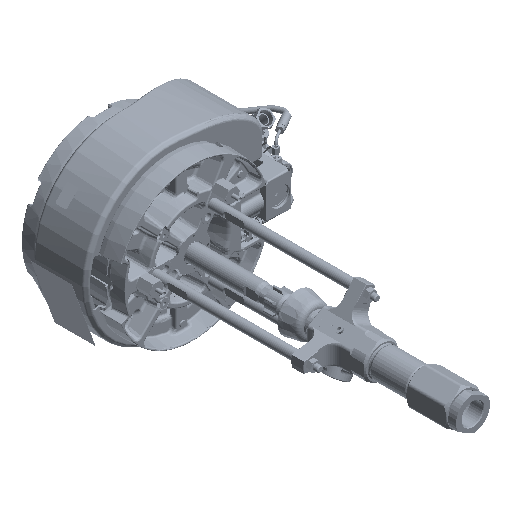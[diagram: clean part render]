
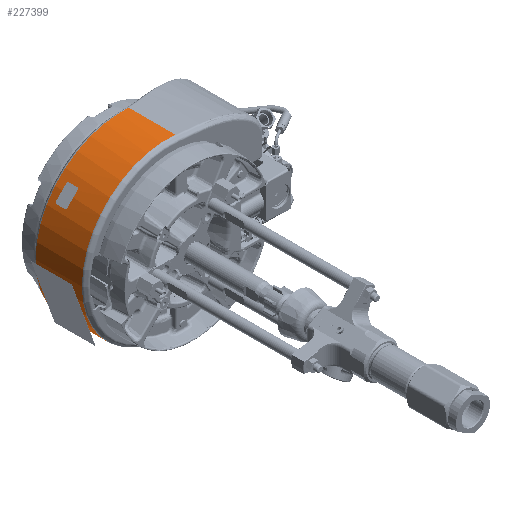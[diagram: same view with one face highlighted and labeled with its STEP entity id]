
A CAD part, isometric view. The second image highlights one B-rep face of the part: STEP entity #227399.
In plain terms, the highlighted cylindrical face has radius 227.33 mm (diameter 454.66 mm), a partial arc.
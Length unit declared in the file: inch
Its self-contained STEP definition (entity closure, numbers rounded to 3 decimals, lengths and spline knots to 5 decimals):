
#205741=CARTESIAN_POINT('',(-0.15263,-2.37355,
-8.9487));
#205742=CARTESIAN_POINT('',(-0.02283,-2.37354,
-8.95091));
#205743=CARTESIAN_POINT('',(0.22773,-2.36906,
-8.94954));
#205744=CARTESIAN_POINT('',(0.5757,-2.35174,
-8.93355));
#205745=CARTESIAN_POINT('',(0.78912,-2.3348,
-8.91573));
#205746=CARTESIAN_POINT('',(0.89118,-2.32537,
-8.90552));
#205748=CARTESIAN_POINT('',(0.,-2.37355,0.));
#205749=DIRECTION('',(0.,-1.,0.));
#205750=DIRECTION('',(-0.017,0.,1.));
#205751=AXIS2_PLACEMENT_3D('',#205748,#205749,#205750);
#205753=CARTESIAN_POINT('',(0.89118,-2.32537,
8.90552));
#205754=CARTESIAN_POINT('',(0.76261,-2.33725,
8.91839));
#205755=CARTESIAN_POINT('',(0.51353,-2.35585,
8.93769));
#205756=CARTESIAN_POINT('',(0.16531,-2.37072,
8.95057));
#205757=CARTESIAN_POINT('',(-0.04958,-2.37354,
8.95046));
#205758=CARTESIAN_POINT('',(-0.15263,-2.37355,
8.9487));
#205760=DIRECTION('',(0.,-1.,0.));
#205761=VECTOR('',#205760,4.92108);
#205762=CARTESIAN_POINT('',(0.89118,-2.32537,
8.90552));
#205763=LINE('',#205762,#205761);
#205764=CARTESIAN_POINT('',(0.,-7.24645,0.));
#205765=DIRECTION('',(0.,1.,0.));
#205766=DIRECTION('',(0.1,0.,-0.995));
#205767=AXIS2_PLACEMENT_3D('',#205764,#205765,#205766);
#205845=CARTESIAN_POINT('',(0.89118,-2.32537,
-8.90552));
#205847=DIRECTION('',(0.,-1.,0.));
#205848=VECTOR('',#205847,4.92108);
#205849=CARTESIAN_POINT('',(0.89118,-2.32537,
-8.90552));
#205850=LINE('',#205849,#205848);
#210585=VERTEX_POINT('',#205845);
#210587=VERTEX_POINT('',#205741);
#210589=CARTESIAN_POINT('',(-0.15263,-2.37355,
8.9487));
#210590=VERTEX_POINT('',#210589);
#210593=VERTEX_POINT('',#205753);
#210641=CARTESIAN_POINT('',(0.89118,-7.24645,
8.90552));
#210642=VERTEX_POINT('',#210641);
#210645=CARTESIAN_POINT('',(0.89118,-7.24645,
-8.90552));
#210646=VERTEX_POINT('',#210645);
#227382=CARTESIAN_POINT('',(0.,-7.66,0.));
#227383=DIRECTION('',(0.,1.,0.));
#227384=DIRECTION('',(0.,0.,-1.));
#227385=AXIS2_PLACEMENT_3D('',#227382,#227383,#227384);
#227386=CYLINDRICAL_SURFACE('',#227385,8.95);
#227388=ORIENTED_EDGE('',*,*,#227387,.F.);
#227390=ORIENTED_EDGE('',*,*,#227389,.F.);
#227391=ORIENTED_EDGE('',*,*,#227372,.F.);
#227392=ORIENTED_EDGE('',*,*,#227203,.T.);
#227394=ORIENTED_EDGE('',*,*,#227393,.F.);
#227396=ORIENTED_EDGE('',*,*,#227395,.F.);
#227397=EDGE_LOOP('',(#227388,#227390,#227391,#227392,#227394,#227396));
#227398=FACE_OUTER_BOUND('',#227397,.F.);
#227399=ADVANCED_FACE('',(#227398),#227386,.T.);
#205747=B_SPLINE_CURVE_WITH_KNOTS('',3,(#205741,#205742,#205743,#205744,#205745,
#205746),.UNSPECIFIED.,.F.,.F.,(4,1,1,4),(0.,0.33333,
0.66667,1.),.UNSPECIFIED.);
#205752=CIRCLE('',#205751,8.95);
#205759=B_SPLINE_CURVE_WITH_KNOTS('',3,(#205753,#205754,#205755,#205756,#205757,
#205758),.UNSPECIFIED.,.F.,.F.,(4,1,1,4),(0.,0.33333,
0.66667,1.),.UNSPECIFIED.);
#205768=CIRCLE('',#205767,8.95);
#227203=EDGE_CURVE('',#210593,#210642,#205763,.T.);
#227372=EDGE_CURVE('',#210593,#210590,#205759,.T.);
#227387=EDGE_CURVE('',#210587,#210585,#205747,.T.);
#227389=EDGE_CURVE('',#210590,#210587,#205752,.T.);
#227393=EDGE_CURVE('',#210646,#210642,#205768,.T.);
#227395=EDGE_CURVE('',#210585,#210646,#205850,.T.);
